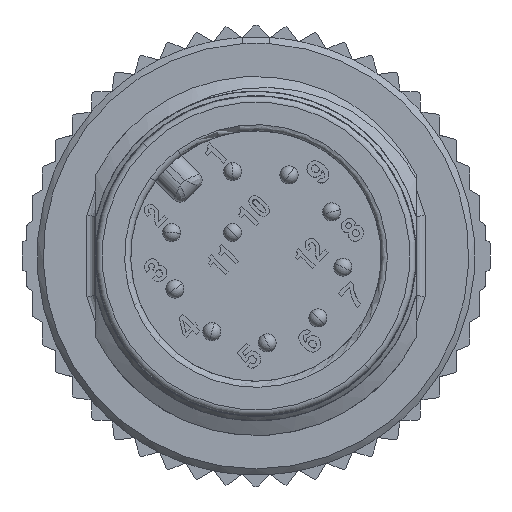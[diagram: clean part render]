
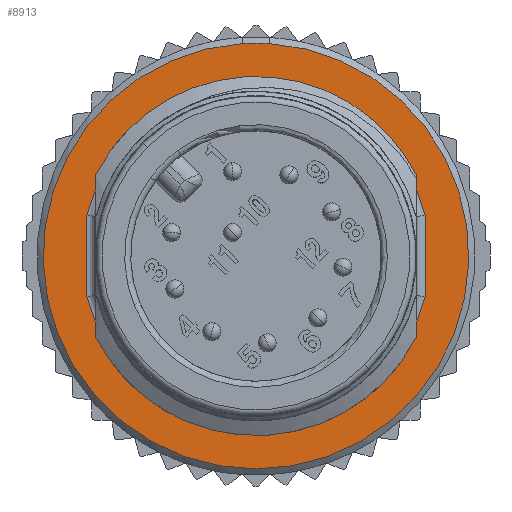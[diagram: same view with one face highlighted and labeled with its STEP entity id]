
A CAD part, left-side view. The second image highlights one B-rep face of the part: STEP entity #8913.
In plain terms, the highlighted planar face has unit normal (-1, 0, 0).
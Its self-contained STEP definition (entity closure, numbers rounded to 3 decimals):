
#14=CARTESIAN_POINT('',(10.,0.,0.));
#15=DIRECTION('',(-1.,0.,0.));
#16=DIRECTION('',(0.,0.063,0.998));
#17=AXIS2_PLACEMENT_3D('',#14,#15,#16);
#19=CARTESIAN_POINT('',(10.,0.,0.));
#20=DIRECTION('',(-1.,0.,0.));
#21=DIRECTION('',(0.,-0.063,0.998));
#22=AXIS2_PLACEMENT_3D('',#19,#20,#21);
#24=DIRECTION('',(0.,0.,-1.));
#25=VECTOR('',#24,2.684);
#26=CARTESIAN_POINT('',(10.,5.6,1.342));
#27=LINE('',#26,#25);
#28=DIRECTION('',(0.,0.,1.));
#29=VECTOR('',#28,2.684);
#30=CARTESIAN_POINT('',(10.,-5.6,-1.342));
#31=LINE('',#30,#29);
#5886=CARTESIAN_POINT('',(10.,0.,0.));
#5887=DIRECTION('',(1.,0.,0.));
#5888=DIRECTION('',(0.,-0.972,-0.233));
#5889=AXIS2_PLACEMENT_3D('',#5886,#5887,#5888);
#5930=CARTESIAN_POINT('',(10.,0.,0.));
#5931=DIRECTION('',(1.,0.,0.));
#5932=DIRECTION('',(0.,0.972,0.233));
#5933=AXIS2_PLACEMENT_3D('',#5930,#5931,#5932);
#7887=CARTESIAN_POINT('',(10.,5.6,1.342));
#7888=CARTESIAN_POINT('',(10.,5.6,-1.342));
#7889=VERTEX_POINT('',#7887);
#7890=VERTEX_POINT('',#7888);
#7895=CARTESIAN_POINT('',(10.,-5.6,-1.342));
#7896=CARTESIAN_POINT('',(10.,-5.6,1.342));
#7897=VERTEX_POINT('',#7895);
#7898=VERTEX_POINT('',#7896);
#8213=CARTESIAN_POINT('',(10.,0.443,7.036));
#8214=CARTESIAN_POINT('',(10.,-0.443,7.036));
#8215=VERTEX_POINT('',#8213);
#8216=VERTEX_POINT('',#8214);
#8893=CARTESIAN_POINT('',(10.,6.78,6.78));
#8894=DIRECTION('',(-1.,0.,0.));
#8895=DIRECTION('',(0.,-1.,0.));
#8896=AXIS2_PLACEMENT_3D('',#8893,#8894,#8895);
#8897=PLANE('',#8896);
#8898=ORIENTED_EDGE('',*,*,#8775,.F.);
#8900=ORIENTED_EDGE('',*,*,#8899,.F.);
#8901=EDGE_LOOP('',(#8898,#8900));
#8902=FACE_OUTER_BOUND('',#8901,.F.);
#8904=ORIENTED_EDGE('',*,*,#8903,.F.);
#8906=ORIENTED_EDGE('',*,*,#8905,.T.);
#8908=ORIENTED_EDGE('',*,*,#8907,.F.);
#8910=ORIENTED_EDGE('',*,*,#8909,.T.);
#8911=EDGE_LOOP('',(#8904,#8906,#8908,#8910));
#8912=FACE_BOUND('',#8911,.F.);
#8913=ADVANCED_FACE('',(#8902,#8912),#8897,.T.);
#18=CIRCLE('',#17,7.05);
#23=CIRCLE('',#22,7.05);
#5890=CIRCLE('',#5889,5.759);
#5934=CIRCLE('',#5933,5.759);
#8775=EDGE_CURVE('',#8215,#8216,#18,.T.);
#8899=EDGE_CURVE('',#8216,#8215,#23,.T.);
#8903=EDGE_CURVE('',#7889,#7898,#5934,.T.);
#8905=EDGE_CURVE('',#7889,#7890,#27,.T.);
#8907=EDGE_CURVE('',#7897,#7890,#5890,.T.);
#8909=EDGE_CURVE('',#7897,#7898,#31,.T.);
